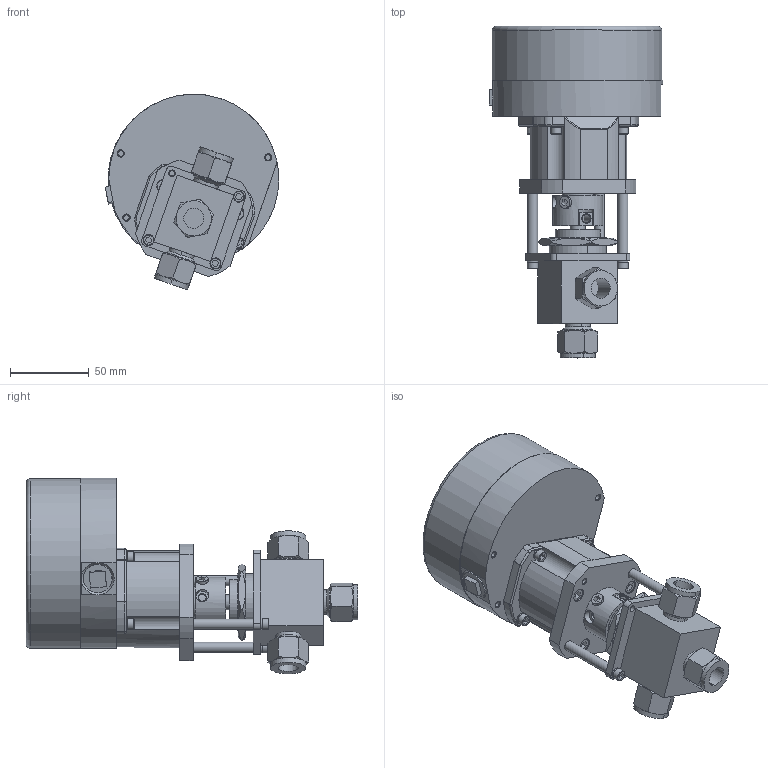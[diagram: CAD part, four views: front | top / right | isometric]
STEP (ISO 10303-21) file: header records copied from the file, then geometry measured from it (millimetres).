
FILE_DESCRIPTION (( 'STEP AP203' ), '1' );
FILE_NAME ('#R-Series Spring Return w. 45XTS8.STEP', '2020-11-26T21:21:44', ( 'Technician #5' ), ( '' ), 'SwSTEP 2.0', 'SolidWorks 2020', '' );
FILE_SCHEMA (( 'CONFIG_CONTROL_DESIGN' ));
Length unit declared in the file: inch
Products named in the file (20): 3010-11 Enclosure Base; 90464-61 Drive Wheel; 10-32; Button #10; 3024-3 Drive Wheel; 3016-8 Enclosure Cover; 90462-60 Lever; 90463 Lever Top; 3022-2 Bearing; NPT Plug; Screw 8-32; Sanya6804; 1174B Valve lever; MtgKit (1.500); 90464-60 Connector Cover; 90460-4 Connector LP Valve; SS-45XS8; SKCP #10 x .75; #R-Series Spring Return w. 45XTS8; 90461-1 Tension ring
Assembly tree (26 placements, depth 2):
  #R-Series Spring Return w. 45XTS8
    3016-8 Enclosure Cover
    3010-11 Enclosure Base
    90460-4 Connector LP Valve
    Sanya6804  x2
    90463 Lever Top
    Button #10
    90461-1 Tension ring
    SKCP #10 x .75  x3
    3024-3 Drive Wheel
    3022-2 Bearing
    Screw 8-32  x4
    NPT Plug
    90464-60 Connector Cover
    90464-61 Drive Wheel
    90462-60 Lever
    1174B Valve lever
    10-32  x2
    SS-45XS8
    MtgKit (1.500)
Bounding box: 110.15 x 210.63 x 124.26 mm (x, y, z)
Volume: 389263.4 mm3; surface area: 189866.7 mm2
Topology: 27 solids, 33 shells, 1089 faces, 2532 edges, 1614 vertices
Faces by surface type: plane 476, cylinder 401, cone 137, torus 39, bspline 32, sphere 4
Full cylindrical faces by diameter (mm): 2.403 x3, 2.705 x2, 3.155 x1, 3.175 x1, 3.454 x4, 3.556 x5, 3.569 x18, 4.039 x5, 4.216 x4, 4.305 x2, 4.445 x4, 4.763 x5, 4.775 x1, 4.978 x3, 5.029 x2, 5.05 x4, 5.105 x3, 5.131 x3, 5.41 x4, 6.335 x1, 6.35 x4, 6.858 x7, 6.985 x7, 7.62 x3, 7.976 x2, 8.128 x4, 8.382 x3, 8.458 x3, 8.636 x3, 9.144 x1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
Entity records: 31811 total; most frequent: CARTESIAN_POINT 7628, DIRECTION 4742, ORIENTED_EDGE 4119, EDGE_CURVE 2060, AXIS2_PLACEMENT_3D 1914, VERTEX_POINT 1431, EDGE_LOOP 1362, FACE_OUTER_BOUND 1134
